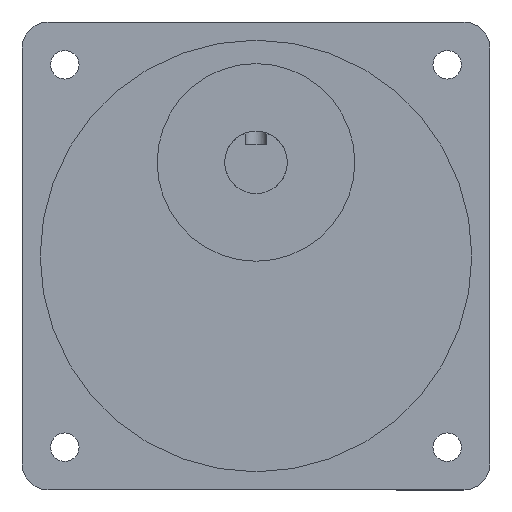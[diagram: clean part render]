
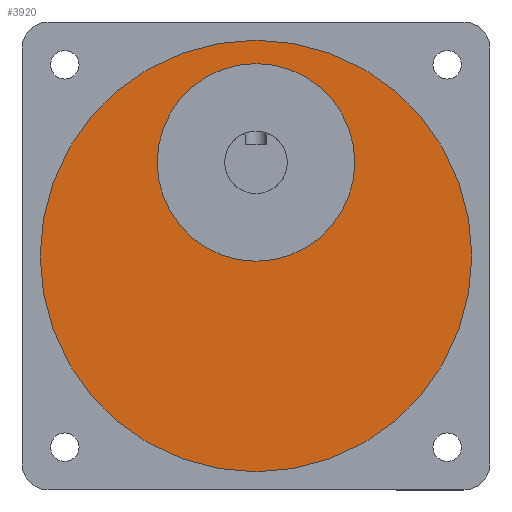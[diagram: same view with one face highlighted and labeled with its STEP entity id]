
A CAD part, front view. The second image highlights one B-rep face of the part: STEP entity #3920.
In plain terms, the highlighted planar face has unit normal (0, -1, 0).
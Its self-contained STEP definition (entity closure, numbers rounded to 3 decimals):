
#65 = CARTESIAN_POINT ( 'NONE',  ( 45., -40., 45. ) ) ;
#69 = EDGE_LOOP ( 'NONE', ( #1808, #1177 ) ) ;
#228 = DIRECTION ( 'NONE',  ( 0., 0., -1. ) ) ;
#245 = DIRECTION ( 'NONE',  ( 0., -1., 0. ) ) ;
#401 = CARTESIAN_POINT ( 'NONE',  ( 45., -40., 86.5 ) ) ;
#578 = VERTEX_POINT ( 'NONE', #1950 ) ;
#652 = CARTESIAN_POINT ( 'NONE',  ( 45., -40., 63. ) ) ;
#715 = FACE_OUTER_BOUND ( 'NONE', #69, .T. ) ;
#772 = CIRCLE ( 'NONE', #3128, 19. ) ;
#1006 = CIRCLE ( 'NONE', #4792, 41.5 ) ;
#1177 = ORIENTED_EDGE ( 'NONE', *, *, #2972, .T. ) ;
#1332 = CARTESIAN_POINT ( 'NONE',  ( 45., -40., 3.5 ) ) ;
#1361 = PLANE ( 'NONE',  #4639 ) ;
#1363 = CARTESIAN_POINT ( 'NONE',  ( 45., -40., 82. ) ) ;
#1485 = CIRCLE ( 'NONE', #3583, 19. ) ;
#1735 = DIRECTION ( 'NONE',  ( 0., -1., 0. ) ) ;
#1808 = ORIENTED_EDGE ( 'NONE', *, *, #2098, .T. ) ;
#1950 = CARTESIAN_POINT ( 'NONE',  ( 45., -40., 44. ) ) ;
#2096 = CARTESIAN_POINT ( 'NONE',  ( 45., -40., 63. ) ) ;
#2098 = EDGE_CURVE ( 'NONE', #3725, #4590, #3695, .T. ) ;
#2109 = DIRECTION ( 'NONE',  ( 0., 0., -1. ) ) ;
#2128 = CARTESIAN_POINT ( 'NONE',  ( 45., -40., 45. ) ) ;
#2290 = DIRECTION ( 'NONE',  ( 0., 0., -1. ) ) ;
#2972 = EDGE_CURVE ( 'NONE', #4590, #3725, #1006, .T. ) ;
#3128 = AXIS2_PLACEMENT_3D ( 'NONE', #652, #3968, #4410 ) ;
#3190 = EDGE_CURVE ( 'NONE', #3221, #578, #1485, .T. ) ;
#3218 = FACE_BOUND ( 'NONE', #4144, .T. ) ;
#3221 = VERTEX_POINT ( 'NONE', #1363 ) ;
#3318 = DIRECTION ( 'NONE',  ( 0., 0., -1. ) ) ;
#3583 = AXIS2_PLACEMENT_3D ( 'NONE', #2096, #245, #228 ) ;
#3668 = DIRECTION ( 'NONE',  ( 0., -1., 0. ) ) ;
#3695 = CIRCLE ( 'NONE', #3886, 41.5 ) ;
#3725 = VERTEX_POINT ( 'NONE', #1332 ) ;
#3740 = ORIENTED_EDGE ( 'NONE', *, *, #3190, .F. ) ;
#3830 = DIRECTION ( 'NONE',  ( 0., -1., 0. ) ) ;
#3835 = EDGE_CURVE ( 'NONE', #578, #3221, #772, .T. ) ;
#3886 = AXIS2_PLACEMENT_3D ( 'NONE', #4847, #3668, #3318 ) ;
#3920 = ADVANCED_FACE ( 'NONE', ( #3218, #715 ), #1361, .T. ) ;
#3968 = DIRECTION ( 'NONE',  ( 0., -1., 0. ) ) ;
#4144 = EDGE_LOOP ( 'NONE', ( #3740, #4385 ) ) ;
#4385 = ORIENTED_EDGE ( 'NONE', *, *, #3835, .F. ) ;
#4410 = DIRECTION ( 'NONE',  ( 0., 0., -1. ) ) ;
#4590 = VERTEX_POINT ( 'NONE', #401 ) ;
#4639 = AXIS2_PLACEMENT_3D ( 'NONE', #2128, #1735, #2109 ) ;
#4792 = AXIS2_PLACEMENT_3D ( 'NONE', #65, #3830, #2290 ) ;
#4847 = CARTESIAN_POINT ( 'NONE',  ( 45., -40., 45. ) ) ;
